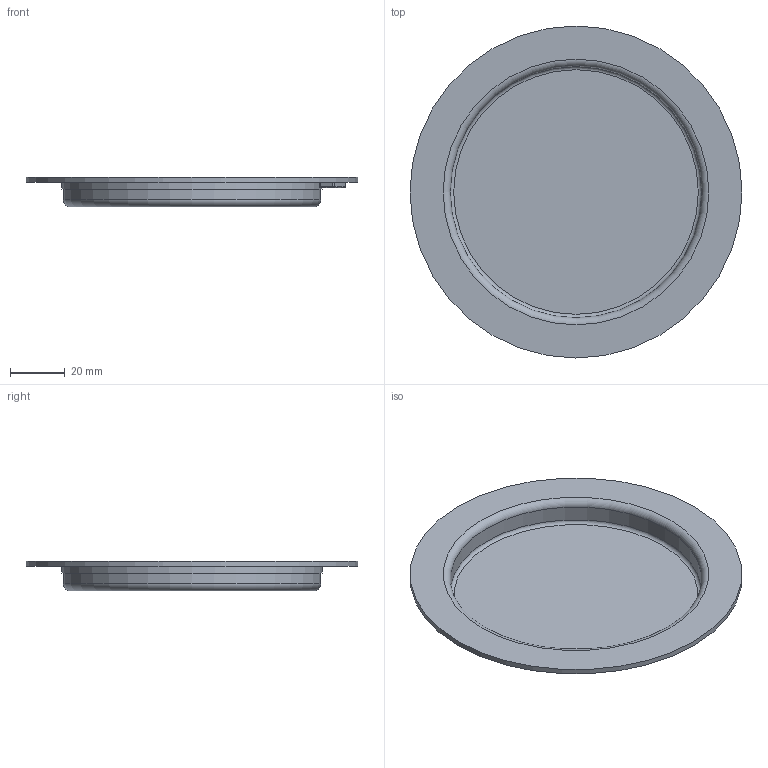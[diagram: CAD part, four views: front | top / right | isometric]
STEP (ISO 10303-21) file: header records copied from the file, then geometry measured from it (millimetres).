
FILE_DESCRIPTION(/* description */ (''),/* implementation_level */ '2;1');
FILE_NAME(/* name */ 'L_Blank_Stencil.step',/* time_stamp */ '2023-10-22T18:09:15+09:00',/* author */ (''),/* organization */ (''),/* preprocessor_version */ 'ST-DEVELOPER v20',/* originating_system */ 'Autodesk Translation Framework v12.14.0.127',/* authorisation */ '');
FILE_SCHEMA (('AUTOMOTIVE_DESIGN { 1 0 10303 214 3 1 1 }'));
Length unit declared in the file: millimetre
Products named in the file (2): 01a_Rv4_100mm_Bodies; Stencil
Assembly tree (1 placements, depth 2):
  01a_Rv4_100mm_Bodies
    Stencil
Bounding box: 121.17 x 121.17 x 10.84 mm (x, y, z)
Volume: 20260.4 mm3; surface area: 28449.3 mm2
Topology: 1 solids, 1 shells, 29 faces, 54 edges, 31 vertices
Faces by surface type: cylinder 12, plane 8, torus 5, sphere 4
Full cylindrical faces by diameter (mm): 91.836 x1, 93.877 x1, 94.897 x1, 121.172 x1
Entity records: 777 total; most frequent: DIRECTION 154, CARTESIAN_POINT 117, ORIENTED_EDGE 108, AXIS2_PLACEMENT_3D 68, EDGE_CURVE 54, CIRCLE 36, EDGE_LOOP 33, VERTEX_POINT 31
